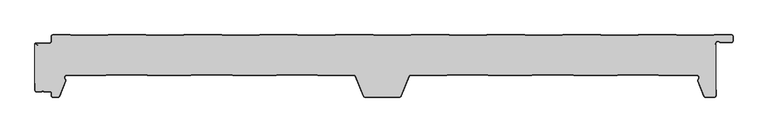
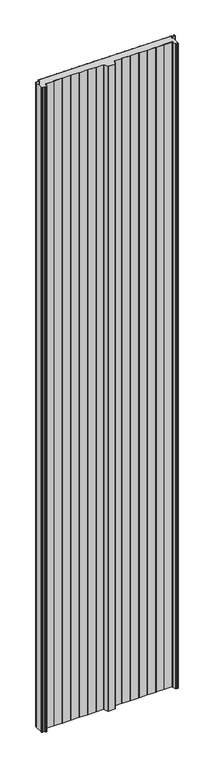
"""IFC4 building model written with IfcOpenShell, lengths in millimetres: plate geometry, ACH_Panel-Cubierta-3-Grecas-P3G : ACH_P3G_3-Rib-Roof-Panel_60M."""

from ifc_helpers import new_model, si_unit, point, frame_2d, origin, origin_with_axes, place, context, project, spatial, polyline, circle_curve, trimmed, segment, composite_curve, outline, extrude, source, transform, mapped, element, save


def plate_7f97df67(model_context):
    return source(origin(), model_context, "Body", "SweptSolid", [
        extrude(outline(composite_curve([segment(polyline([(-499.496875, -13.8660254), (-495.496875, -16.1754265), (-495.096875, -15.4826062), (-498.1272598, -13.7330127)]), True, "CONTINUOUS"), segment(trimmed(circle_curve(frame_2d((-497.8772598, -13.3)), 0.5), [point((-498.1272598, -13.7330127))], [point((-497.8772598, -12.8))], False, "CARTESIAN"), True, "CONTINUOUS"), segment(polyline([(-497.8772598, -12.8), (-477.996875, -12.8)]), True, "CONTINUOUS"), segment(trimmed(circle_curve(frame_2d((-477.996875, -10.0)), 2.8), [point((-477.996875, -12.8))], [point((-475.196875, -10.0))], True, "CARTESIAN"), True, "CONTINUOUS"), segment(polyline([(-475.196875, -10.0), (-475.196875, -2.5)]), True, "CONTINUOUS"), segment(trimmed(circle_curve(frame_2d((-473.496875, -2.5)), 1.7), [point((-475.196875, -2.5))], [point((-473.496875, -0.8))], False, "CARTESIAN"), True, "CONTINUOUS"), segment(polyline([(-473.496875, -0.8), (-448.4313592, -0.8), (-447.4338592, -1.4), (-393.4298908, -1.4), (-392.4323908, -0.8), (-337.3213592, -0.8), (-336.3238592, -1.4), (-282.3198908, -1.4), (-281.3223908, -0.8), (-226.2113592, -0.8), (-225.2138592, -1.4), (-171.2098908, -1.4), (-170.2123908, -0.8), (-115.1013592, -0.8), (-114.1038592, -1.4), (-60.0998908, -1.4), (-59.1023908, -0.8), (-3.9913592, -0.8), (-2.9938592, -1.4), (51.0101092, -1.4), (52.0076092, -0.8), (107.1186408, -0.8), (108.1161408, -1.4), (162.1201092, -1.4), (163.1176092, -0.8), (218.2286408, -0.8), (219.2261408, -1.4), (273.2301092, -1.4), (274.2276092, -0.8), (329.3386408, -0.8), (330.3361408, -1.4), (384.3401092, -1.4), (385.3376092, -0.8), (440.4486408, -0.8), (441.4461408, -1.4), (495.4501092, -1.4), (496.4476092, -0.8), (521.503125, -0.8)]), True, "CONTINUOUS"), segment(trimmed(circle_curve(frame_2d((521.503125, -2.5)), 1.7), [point((521.503125, -0.8))], [point((523.203125, -2.5))], False, "CARTESIAN"), True, "CONTINUOUS"), segment(polyline([(523.203125, -2.5), (523.203125, -9.0)]), True, "CONTINUOUS"), segment(trimmed(circle_curve(frame_2d((521.503125, -9.0)), 1.7), [point((523.203125, -9.0))], [point((521.503125, -10.7))], False, "CARTESIAN"), True, "CONTINUOUS"), segment(polyline([(521.503125, -10.7), (505.8568186, -10.7)]), True, "CONTINUOUS"), segment(trimmed(circle_curve(frame_2d((505.8568186, -9.0)), 1.7), [point((505.8568186, -10.7))], [point((504.7323743, -10.275))], False, "CARTESIAN"), True, "CONTINUOUS"), segment(trimmed(circle_curve(frame_2d((501.8881916, -13.5)), 4.3), [point((504.7323743, -10.275))], [point((497.8475134, -12.0293134))], True, "CARTESIAN"), True, "CONTINUOUS"), segment(polyline([(497.8475134, -12.0293134), (497.1006025, -14.0814342)]), True, "CONTINUOUS"), segment(trimmed(circle_curve(frame_2d((495.503125, -13.5)), 1.7), [point((497.1006025, -14.0814342))], [point((495.503125, -15.2))], False, "CARTESIAN"), True, "CONTINUOUS"), segment(polyline([(495.503125, -15.2), (490.503125, -15.2), (490.503125, -16.0), (495.503125, -16.0)]), True, "CONTINUOUS"), segment(trimmed(circle_curve(frame_2d((495.503125, -13.5)), 2.5), [point((495.503125, -16.0))], [point((497.8523566, -14.3550504))], True, "CARTESIAN"), True, "CONTINUOUS"), segment(polyline([(497.8523566, -14.3550504), (498.203125, -13.391322), (498.203125, -89.5)]), True, "CONTINUOUS"), segment(trimmed(circle_curve(frame_2d((496.503125, -89.5)), 1.7), [point((498.203125, -89.5))], [point((496.503125, -91.2))], False, "CARTESIAN"), True, "CONTINUOUS"), segment(polyline([(496.503125, -91.2), (483.6093963, -91.2)]), True, "CONTINUOUS"), segment(trimmed(circle_curve(frame_2d((483.6093963, -89.5)), 1.7), [point((483.6093963, -91.2))], [point((482.0331837, -90.1368312))], False, "CARTESIAN"), True, "CONTINUOUS"), segment(polyline([(482.0331837, -90.1368312), (473.0241766, -67.838756)]), True, "CONTINUOUS"), segment(trimmed(circle_curve(frame_2d((474.6003891, -67.2019248)), 1.7), [point((473.0241766, -67.838756))], [point((473.4430606, -65.9566976))], False, "CARTESIAN"), True, "CONTINUOUS"), segment(trimmed(circle_curve(frame_2d((470.7880129, -63.1)), 3.9), [point((473.4430606, -65.9566976))], [point((470.7880129, -59.2))], True, "CARTESIAN"), True, "CONTINUOUS"), segment(polyline([(470.7880129, -59.2), (415.2251881, -59.2), (414.2276881, -58.6), (354.7785619, -58.6), (353.7810619, -59.2), (290.2252392, -59.2), (289.2266715, -58.6), (229.7795785, -58.6), (228.7810108, -59.2), (165.225925, -59.2), (164.2273573, -58.6), (104.7788927, -58.6), (103.780325, -59.2), (50.7367047, -59.2)]), True, "CONTINUOUS"), segment(trimmed(circle_curve(frame_2d((50.7367047, -62.0)), 2.8), [point((50.7367047, -59.2))], [point((48.1405899, -60.9511015))], True, "CARTESIAN"), True, "CONTINUOUS"), segment(polyline([(48.1405899, -60.9511015), (36.4751274, -89.8241345)]), True, "CONTINUOUS"), segment(trimmed(circle_curve(frame_2d((34.4353229, -89.0)), 2.2), [point((36.4751274, -89.8241345))], [point((34.4353229, -91.2))], False, "CARTESIAN"), True, "CONTINUOUS"), segment(polyline([(34.4353229, -91.2), (-15.5090729, -91.2)]), True, "CONTINUOUS"), segment(trimmed(circle_curve(frame_2d((-15.5090729, -89.0)), 2.2), [point((-15.5090729, -91.2))], [point((-17.5488774, -89.8241345))], False, "CARTESIAN"), True, "CONTINUOUS"), segment(polyline([(-17.5488774, -89.8241345), (-29.2143399, -60.9511015)]), True, "CONTINUOUS"), segment(trimmed(circle_curve(frame_2d((-31.8104547, -62.0)), 2.8), [point((-29.2143399, -60.9511015))], [point((-31.8104547, -59.2))], True, "CARTESIAN"), True, "CONTINUOUS"), segment(polyline([(-31.8104547, -59.2), (-84.8548119, -59.2), (-85.8523119, -58.6), (-145.3014381, -58.6), (-146.2989381, -59.2), (-209.8548119, -59.2), (-210.8523119, -58.6), (-270.3014381, -58.6), (-271.2989381, -59.2), (-334.8548119, -59.2), (-335.8523119, -58.6), (-395.3011073, -58.6), (-396.299675, -59.2), (-453.2387629, -59.2)]), True, "CONTINUOUS"), segment(trimmed(circle_curve(frame_2d((-453.2387629, -63.1)), 3.9), [point((-453.2387629, -59.2))], [point((-455.8938106, -65.9566976))], True, "CARTESIAN"), True, "CONTINUOUS"), segment(trimmed(circle_curve(frame_2d((-457.0511391, -67.2019248)), 1.7), [point((-455.8938106, -65.9566976))], [point((-455.4749266, -67.838756))], False, "CARTESIAN"), True, "CONTINUOUS"), segment(polyline([(-455.4749266, -67.838756), (-464.4839337, -90.1368312)]), True, "CONTINUOUS"), segment(trimmed(circle_curve(frame_2d((-466.0601463, -89.5)), 1.7), [point((-464.4839337, -90.1368312))], [point((-466.0601463, -91.2))], False, "CARTESIAN"), True, "CONTINUOUS"), segment(polyline([(-466.0601463, -91.2), (-473.496875, -91.2)]), True, "CONTINUOUS"), segment(trimmed(circle_curve(frame_2d((-473.496875, -89.5)), 1.7), [point((-473.496875, -91.2))], [point((-475.196875, -89.5))], False, "CARTESIAN"), True, "CONTINUOUS"), segment(polyline([(-475.196875, -89.5), (-475.196875, -86.0)]), True, "CONTINUOUS"), segment(trimmed(circle_curve(frame_2d((-477.996875, -86.0)), 2.8), [point((-475.196875, -86.0))], [point((-477.996875, -83.2))], True, "CARTESIAN"), True, "CONTINUOUS"), segment(polyline([(-477.996875, -83.2), (-486.5995084, -83.2)]), True, "CONTINUOUS"), segment(trimmed(circle_curve(frame_2d((-488.496875, -84.5)), 2.3), [point((-486.5995084, -83.2))], [point((-490.3942416, -83.2))], True, "CARTESIAN"), True, "CONTINUOUS"), segment(polyline([(-490.3942416, -83.2), (-497.496875, -83.2)]), True, "CONTINUOUS"), segment(trimmed(circle_curve(frame_2d((-497.496875, -81.5)), 1.7), [point((-497.496875, -83.2))], [point((-499.196875, -81.5))], False, "CARTESIAN"), True, "CONTINUOUS"), segment(polyline([(-499.196875, -81.5), (-499.196875, -71.18), (-499.996875, -71.18), (-499.996875, -13.0)]), True, "CONTINUOUS"), segment(trimmed(circle_curve(frame_2d((-498.996875, -13.0)), 1.0), [point((-499.996875, -13.0))], [point((-499.496875, -13.8660254))], True, "CARTESIAN"), True, "CONTINUOUS")], self_intersect=False)), origin_with_axes(), (0.0, 0.0, 1.0), 5000.0),
        extrude(outline(composite_curve([segment(trimmed(circle_curve(frame_2d((-478.0, -10.0)), 2.0), [point((-478.0, -12.0))], [point((-476.0, -10.0))], True, "CARTESIAN"), True, "CONTINUOUS"), segment(polyline([(-476.0, -10.0), (-476.0, -2.5)]), True, "CONTINUOUS"), segment(trimmed(circle_curve(frame_2d((-473.5, -2.5)), 2.5), [point((-476.0, -2.5))], [point((-473.5, 0.0))], False, "CARTESIAN"), True, "CONTINUOUS"), segment(polyline([(-473.5, 0.0), (-448.2124211, 0.0), (-447.2149211, -0.6), (-393.6550789, -0.6), (-392.6575789, 0.0), (-337.1024211, 0.0), (-336.1049211, -0.6), (-282.5450789, -0.6), (-281.5475789, 0.0), (-225.9924211, 0.0), (-224.9949211, -0.6), (-171.4350789, -0.6), (-170.4375789, 0.0), (-114.8824211, 0.0), (-113.8849211, -0.6), (-60.3250789, -0.6), (-59.3275789, 0.0), (-3.7724211, 0.0), (-2.7749211, -0.6), (50.7849211, -0.6), (51.7824211, 0.0), (107.3375789, 0.0), (108.3350789, -0.6), (161.8949211, -0.6), (162.8924211, 0.0), (218.4475789, 0.0), (219.4450789, -0.6), (273.0049211, -0.6), (274.0024211, 0.0), (329.5575789, 0.0), (330.5550789, -0.6), (384.1149211, -0.6), (385.1124211, 0.0), (440.6675789, 0.0), (441.6650789, -0.6), (495.2249211, -0.6), (496.2224211, 0.0), (521.5, 0.0)]), True, "CONTINUOUS"), segment(trimmed(circle_curve(frame_2d((521.5, -2.5)), 2.5), [point((521.5, 0.0))], [point((524.0, -2.5))], False, "CARTESIAN"), True, "CONTINUOUS"), segment(polyline([(524.0, -2.5), (524.0, -9.0)]), True, "CONTINUOUS"), segment(trimmed(circle_curve(frame_2d((521.5, -9.0)), 2.5), [point((524.0, -9.0))], [point((521.5, -11.5))], False, "CARTESIAN"), True, "CONTINUOUS"), segment(polyline([(521.5, -11.5), (505.8536936, -11.5)]), True, "CONTINUOUS"), segment(trimmed(circle_curve(frame_2d((505.8536936, -9.0)), 2.5), [point((505.8536936, -11.5))], [point((504.200099, -10.875))], False, "CARTESIAN"), True, "CONTINUOUS"), segment(trimmed(circle_curve(frame_2d((501.8850666, -13.5)), 3.5), [point((504.200099, -10.875))], [point((498.5961425, -12.3029295))], True, "CARTESIAN"), True, "CONTINUOUS"), segment(polyline([(498.5961425, -12.3029295), (497.8492316, -14.3550504)]), True, "CONTINUOUS"), segment(trimmed(circle_curve(frame_2d((495.5, -13.5)), 2.5), [point((497.8492316, -14.3550504))], [point((495.5, -16.0))], False, "CARTESIAN"), True, "CONTINUOUS"), segment(polyline([(495.5, -16.0), (490.5, -16.0), (490.5, -15.2), (495.5, -15.2)]), True, "CONTINUOUS"), segment(trimmed(circle_curve(frame_2d((495.5, -13.5)), 1.7), [point((495.5, -15.2))], [point((497.0974775, -14.0814342))], True, "CARTESIAN"), True, "CONTINUOUS"), segment(polyline([(497.0974775, -14.0814342), (497.8443884, -12.0293134)]), True, "CONTINUOUS"), segment(trimmed(circle_curve(frame_2d((501.8850666, -13.5)), 4.3), [point((497.8443884, -12.0293134))], [point((504.7292493, -10.275))], False, "CARTESIAN"), True, "CONTINUOUS"), segment(trimmed(circle_curve(frame_2d((505.8536936, -9.0)), 1.7), [point((504.7292493, -10.275))], [point((505.8536936, -10.7))], True, "CARTESIAN"), True, "CONTINUOUS"), segment(polyline([(505.8536936, -10.7), (521.5, -10.7)]), True, "CONTINUOUS"), segment(trimmed(circle_curve(frame_2d((521.5, -9.0)), 1.7), [point((521.5, -10.7))], [point((523.2, -9.0))], True, "CARTESIAN"), True, "CONTINUOUS"), segment(polyline([(523.2, -9.0), (523.2, -2.5)]), True, "CONTINUOUS"), segment(trimmed(circle_curve(frame_2d((521.5, -2.5)), 1.7), [point((523.2, -2.5))], [point((521.5, -0.8))], True, "CARTESIAN"), True, "CONTINUOUS"), segment(polyline([(521.5, -0.8), (496.4444842, -0.8), (495.4469842, -1.4), (441.4430158, -1.4), (440.4455158, -0.8), (385.3344842, -0.8), (384.3369842, -1.4), (330.3330158, -1.4), (329.3355158, -0.8), (274.2244842, -0.8), (273.2269842, -1.4), (219.2230158, -1.4), (218.2255158, -0.8), (163.1144842, -0.8), (162.1169842, -1.4), (108.1130158, -1.4), (107.1155158, -0.8), (52.0044842, -0.8), (51.0069842, -1.4), (-2.9969842, -1.4), (-3.9944842, -0.8), (-59.1055158, -0.8), (-60.1030158, -1.4), (-114.1069842, -1.4), (-115.1044842, -0.8), (-170.2155158, -0.8), (-171.2130158, -1.4), (-225.2169842, -1.4), (-226.2144842, -0.8), (-281.3255158, -0.8), (-282.3230158, -1.4), (-336.3269842, -1.4), (-337.3244842, -0.8), (-392.4355158, -0.8), (-393.4330158, -1.4), (-447.4369842, -1.4), (-448.4344842, -0.8), (-473.5, -0.8)]), True, "CONTINUOUS"), segment(trimmed(circle_curve(frame_2d((-473.5, -2.5)), 1.7), [point((-473.5, -0.8))], [point((-475.2, -2.5))], True, "CARTESIAN"), True, "CONTINUOUS"), segment(polyline([(-475.2, -2.5), (-475.2, -10.0)]), True, "CONTINUOUS"), segment(trimmed(circle_curve(frame_2d((-478.0, -10.0)), 2.8), [point((-475.2, -10.0))], [point((-478.0, -12.8))], False, "CARTESIAN"), True, "CONTINUOUS"), segment(polyline([(-478.0, -12.8), (-497.8803848, -12.8)]), True, "CONTINUOUS"), segment(trimmed(circle_curve(frame_2d((-497.8803848, -13.3)), 0.5), [point((-497.8803848, -12.8))], [point((-498.1303848, -13.7330127))], True, "CARTESIAN"), True, "CONTINUOUS"), segment(polyline([(-498.1303848, -13.7330127), (-495.1, -15.4826062), (-495.5, -16.1754265), (-499.5, -13.8660254)]), True, "CONTINUOUS"), segment(trimmed(circle_curve(frame_2d((-499.0, -13.0)), 1.0), [point((-499.5, -13.8660254))], [point((-499.0, -12.0))], False, "CARTESIAN"), True, "CONTINUOUS"), segment(polyline([(-499.0, -12.0), (-478.0, -12.0)]), True, "CONTINUOUS")], self_intersect=False)), origin_with_axes(), (0.0, 0.0, 1.0), 5000.0),
        extrude(outline(composite_curve([segment(polyline([(-500.0, -81.5), (-500.0, -71.18), (-499.2, -71.18), (-499.2, -81.5)]), True, "CONTINUOUS"), segment(trimmed(circle_curve(frame_2d((-497.5, -81.5)), 1.7), [point((-499.2, -81.5))], [point((-497.5, -83.2))], True, "CARTESIAN"), True, "CONTINUOUS"), segment(polyline([(-497.5, -83.2), (-490.3973666, -83.2)]), True, "CONTINUOUS"), segment(trimmed(circle_curve(frame_2d((-488.5, -84.5)), 2.3), [point((-490.3973666, -83.2))], [point((-486.6026334, -83.2))], False, "CARTESIAN"), True, "CONTINUOUS"), segment(polyline([(-486.6026334, -83.2), (-478.0, -83.2)]), True, "CONTINUOUS"), segment(trimmed(circle_curve(frame_2d((-478.0, -86.0)), 2.8), [point((-478.0, -83.2))], [point((-475.2, -86.0))], False, "CARTESIAN"), True, "CONTINUOUS"), segment(polyline([(-475.2, -86.0), (-475.2, -89.5)]), True, "CONTINUOUS"), segment(trimmed(circle_curve(frame_2d((-473.5, -89.5)), 1.7), [point((-475.2, -89.5))], [point((-473.5, -91.2))], True, "CARTESIAN"), True, "CONTINUOUS"), segment(polyline([(-473.5, -91.2), (-466.0632713, -91.2)]), True, "CONTINUOUS"), segment(trimmed(circle_curve(frame_2d((-466.0632713, -89.5)), 1.7), [point((-466.0632713, -91.2))], [point((-464.4870587, -90.1368312))], True, "CARTESIAN"), True, "CONTINUOUS"), segment(polyline([(-464.4870587, -90.1368312), (-455.4780516, -67.838756)]), True, "CONTINUOUS"), segment(trimmed(circle_curve(frame_2d((-457.0542641, -67.2019248)), 1.7), [point((-455.4780516, -67.838756))], [point((-455.8969356, -65.9566976))], True, "CARTESIAN"), True, "CONTINUOUS"), segment(trimmed(circle_curve(frame_2d((-453.2418879, -63.1)), 3.9), [point((-455.8969356, -65.9566976))], [point((-453.2418879, -59.2))], False, "CARTESIAN"), True, "CONTINUOUS"), segment(polyline([(-453.2418879, -59.2), (-396.3028, -59.2), (-395.3042323, -58.6), (-335.8554369, -58.6), (-334.8579369, -59.2), (-271.3020631, -59.2), (-270.3045631, -58.6), (-210.8554369, -58.6), (-209.8579369, -59.2), (-146.3020631, -59.2), (-145.3045631, -58.6), (-85.8554369, -58.6), (-84.8579369, -59.2), (-31.8135797, -59.2)]), True, "CONTINUOUS"), segment(trimmed(circle_curve(frame_2d((-31.8135797, -62.0)), 2.8), [point((-31.8135797, -59.2))], [point((-29.2174649, -60.9511015))], False, "CARTESIAN"), True, "CONTINUOUS"), segment(polyline([(-29.2174649, -60.9511015), (-17.5520024, -89.8241345)]), True, "CONTINUOUS"), segment(trimmed(circle_curve(frame_2d((-15.5121979, -89.0)), 2.2), [point((-17.5520024, -89.8241345))], [point((-15.5121979, -91.2))], True, "CARTESIAN"), True, "CONTINUOUS"), segment(polyline([(-15.5121979, -91.2), (34.4321979, -91.2)]), True, "CONTINUOUS"), segment(trimmed(circle_curve(frame_2d((34.4321979, -89.0)), 2.2), [point((34.4321979, -91.2))], [point((36.4720024, -89.8241345))], True, "CARTESIAN"), True, "CONTINUOUS"), segment(polyline([(36.4720024, -89.8241345), (48.1374649, -60.9511015)]), True, "CONTINUOUS"), segment(trimmed(circle_curve(frame_2d((50.7335797, -62.0)), 2.8), [point((48.1374649, -60.9511015))], [point((50.7335797, -59.2))], False, "CARTESIAN"), True, "CONTINUOUS"), segment(polyline([(50.7335797, -59.2), (103.7772, -59.2), (104.7757677, -58.6), (164.2242323, -58.6), (165.2228, -59.2), (228.7778858, -59.2), (229.7764535, -58.6), (289.2235465, -58.6), (290.2221142, -59.2), (353.7779369, -59.2), (354.7754369, -58.6), (414.2245631, -58.6), (415.2220631, -59.2), (470.7848879, -59.2)]), True, "CONTINUOUS"), segment(trimmed(circle_curve(frame_2d((470.7848879, -63.1)), 3.9), [point((470.7848879, -59.2))], [point((473.4399356, -65.9566976))], False, "CARTESIAN"), True, "CONTINUOUS"), segment(trimmed(circle_curve(frame_2d((474.5972641, -67.2019248)), 1.7), [point((473.4399356, -65.9566976))], [point((473.0210516, -67.838756))], True, "CARTESIAN"), True, "CONTINUOUS"), segment(polyline([(473.0210516, -67.838756), (482.0300587, -90.1368312)]), True, "CONTINUOUS"), segment(trimmed(circle_curve(frame_2d((483.6062713, -89.5)), 1.7), [point((482.0300587, -90.1368312))], [point((483.6062713, -91.2))], True, "CARTESIAN"), True, "CONTINUOUS"), segment(polyline([(483.6062713, -91.2), (496.5, -91.2)]), True, "CONTINUOUS"), segment(trimmed(circle_curve(frame_2d((496.5, -89.5)), 1.7), [point((496.5, -91.2))], [point((498.2, -89.5))], True, "CARTESIAN"), True, "CONTINUOUS"), segment(polyline([(498.2, -89.5), (498.2, -81.0), (499.0, -81.0), (499.0, -89.5)]), True, "CONTINUOUS"), segment(trimmed(circle_curve(frame_2d((496.5, -89.5)), 2.5), [point((499.0, -89.5))], [point((496.5, -92.0))], False, "CARTESIAN"), True, "CONTINUOUS"), segment(polyline([(496.5, -92.0), (483.6062713, -92.0)]), True, "CONTINUOUS"), segment(trimmed(circle_curve(frame_2d((483.6062713, -89.5)), 2.5), [point((483.6062713, -92.0))], [point((481.2883117, -90.4365165))], False, "CARTESIAN"), True, "CONTINUOUS"), segment(polyline([(481.2883117, -90.4365165), (472.2793045, -68.1384413)]), True, "CONTINUOUS"), segment(trimmed(circle_curve(frame_2d((474.5972641, -67.2019248)), 2.5), [point((472.2793045, -68.1384413))], [point((472.8953104, -65.3707084))], False, "CARTESIAN"), True, "CONTINUOUS"), segment(trimmed(circle_curve(frame_2d((470.7848879, -63.1)), 3.1), [point((472.8953104, -65.3707084))], [point((470.7848879, -60.0))], True, "CARTESIAN"), True, "CONTINUOUS"), segment(polyline([(470.7848879, -60.0), (415.0, -60.0), (414.0025, -59.4), (354.9975, -59.4), (354.0, -60.0), (290.0002546, -60.0), (289.0016869, -59.4), (229.9983131, -59.4), (228.9997454, -60.0), (165.0009404, -60.0), (164.0023727, -59.4), (104.9976273, -59.4), (103.9990596, -60.0), (50.7335797, -60.0)]), True, "CONTINUOUS"), segment(trimmed(circle_curve(frame_2d((50.7335797, -62.0)), 2.0), [point((50.7335797, -60.0))], [point((48.879212, -61.2507868))], True, "CARTESIAN"), True, "CONTINUOUS"), segment(polyline([(48.879212, -61.2507868), (37.2137494, -90.1238198)]), True, "CONTINUOUS"), segment(trimmed(circle_curve(frame_2d((34.4321979, -89.0)), 3.0), [point((37.2137494, -90.1238198))], [point((34.4321979, -92.0))], False, "CARTESIAN"), True, "CONTINUOUS"), segment(polyline([(34.4321979, -92.0), (-15.5121979, -92.0)]), True, "CONTINUOUS"), segment(trimmed(circle_curve(frame_2d((-15.5121979, -89.0)), 3.0), [point((-15.5121979, -92.0))], [point((-18.2937494, -90.1238198))], False, "CARTESIAN"), True, "CONTINUOUS"), segment(polyline([(-18.2937494, -90.1238198), (-29.959212, -61.2507868)]), True, "CONTINUOUS"), segment(trimmed(circle_curve(frame_2d((-31.8135797, -62.0)), 2.0), [point((-29.959212, -61.2507868))], [point((-31.8135797, -60.0))], True, "CARTESIAN"), True, "CONTINUOUS"), segment(polyline([(-31.8135797, -60.0), (-85.08, -60.0), (-86.0775, -59.4), (-145.0825, -59.4), (-146.08, -60.0), (-210.08, -60.0), (-211.0775, -59.4), (-270.0825, -59.4), (-271.08, -60.0), (-335.08, -60.0), (-336.0775, -59.4), (-395.0823727, -59.4), (-396.0809404, -60.0), (-453.2418879, -60.0)]), True, "CONTINUOUS"), segment(trimmed(circle_curve(frame_2d((-453.2418879, -63.1)), 3.1), [point((-453.2418879, -60.0))], [point((-455.3523104, -65.3707084))], True, "CARTESIAN"), True, "CONTINUOUS"), segment(trimmed(circle_curve(frame_2d((-457.0542641, -67.2019248)), 2.5), [point((-455.3523104, -65.3707084))], [point((-454.7363045, -68.1384413))], False, "CARTESIAN"), True, "CONTINUOUS"), segment(polyline([(-454.7363045, -68.1384413), (-463.7453117, -90.4365165)]), True, "CONTINUOUS"), segment(trimmed(circle_curve(frame_2d((-466.0632713, -89.5)), 2.5), [point((-463.7453117, -90.4365165))], [point((-466.0632713, -92.0))], False, "CARTESIAN"), True, "CONTINUOUS"), segment(polyline([(-466.0632713, -92.0), (-473.5, -92.0)]), True, "CONTINUOUS"), segment(trimmed(circle_curve(frame_2d((-473.5, -89.5)), 2.5), [point((-473.5, -92.0))], [point((-476.0, -89.5))], False, "CARTESIAN"), True, "CONTINUOUS"), segment(polyline([(-476.0, -89.5), (-476.0, -86.0)]), True, "CONTINUOUS"), segment(trimmed(circle_curve(frame_2d((-478.0, -86.0)), 2.0), [point((-476.0, -86.0))], [point((-478.0, -84.0))], True, "CARTESIAN"), True, "CONTINUOUS"), segment(polyline([(-478.0, -84.0), (-486.263932, -84.0)]), True, "CONTINUOUS"), segment(trimmed(circle_curve(frame_2d((-486.263932, -82.5)), 1.5), [point((-486.263932, -84.0))], [point((-487.381966, -83.5))], False, "CARTESIAN"), True, "CONTINUOUS"), segment(trimmed(circle_curve(frame_2d((-488.5, -84.5)), 1.5), [point((-487.381966, -83.5))], [point((-489.618034, -83.5))], True, "CARTESIAN"), True, "CONTINUOUS"), segment(trimmed(circle_curve(frame_2d((-490.736068, -82.5)), 1.5), [point((-489.618034, -83.5))], [point((-490.736068, -84.0))], False, "CARTESIAN"), True, "CONTINUOUS"), segment(polyline([(-490.736068, -84.0), (-497.5, -84.0)]), True, "CONTINUOUS"), segment(trimmed(circle_curve(frame_2d((-497.5, -81.5)), 2.5), [point((-497.5, -84.0))], [point((-500.0, -81.5))], False, "CARTESIAN"), True, "CONTINUOUS")], self_intersect=False)), origin_with_axes(), (0.0, 0.0, 1.0), 5000.0),
    ])


if __name__ == "__main__":
    model = new_model("IFC4")
    model_context = context("Model", 3, world=origin())
    ifc_project = project(units=[si_unit("LENGTHUNIT", "METRE", prefix="MILLI")], contexts=[model_context])
    site = spatial("IfcSite", under=ifc_project)
    building = spatial("IfcBuilding", under=site)
    placement = place(None, origin())
    plate_shape = plate_7f97df67(model_context)
    element("IfcPlate", 1, ObjectType="ACH_Panel-Cubierta-3-Grecas-P3G : ACH_P3G_3-Rib-Roof-Panel_60M", at=placement, inside=building, context=model_context, shape_type="MappedRepresentation", body=[
        mapped(plate_shape, transform((0.0, 0.0, 0.0), x_axis=(1.0, 0.0, 0.0), y_axis=(0.0, 1.0, 0.0), z_axis=(0.0, 0.0, 1.0))),
    ])
    save(model, "model.ifc")
